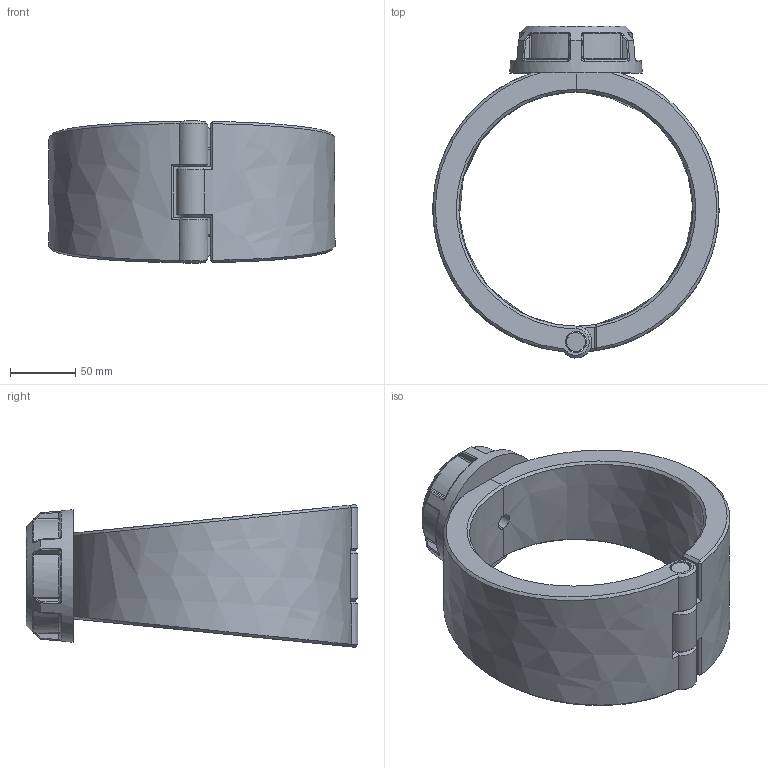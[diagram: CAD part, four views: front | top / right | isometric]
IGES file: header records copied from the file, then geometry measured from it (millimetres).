
Global section: file name: 163000180007; native system: Autodesk Inventor 2019; preprocessor: unknown; author: comp2; date: 20220203.115230; units: millimetre
Bounding box: 219.99 x 255 x 109.6 mm (x, y, z)
Volume: 1284264.1 mm3; surface area: 175857.3 mm2
Topology: 4 solids, 4 shells, 203 faces, 486 edges, 293 vertices
Faces by surface type: bspline 203
